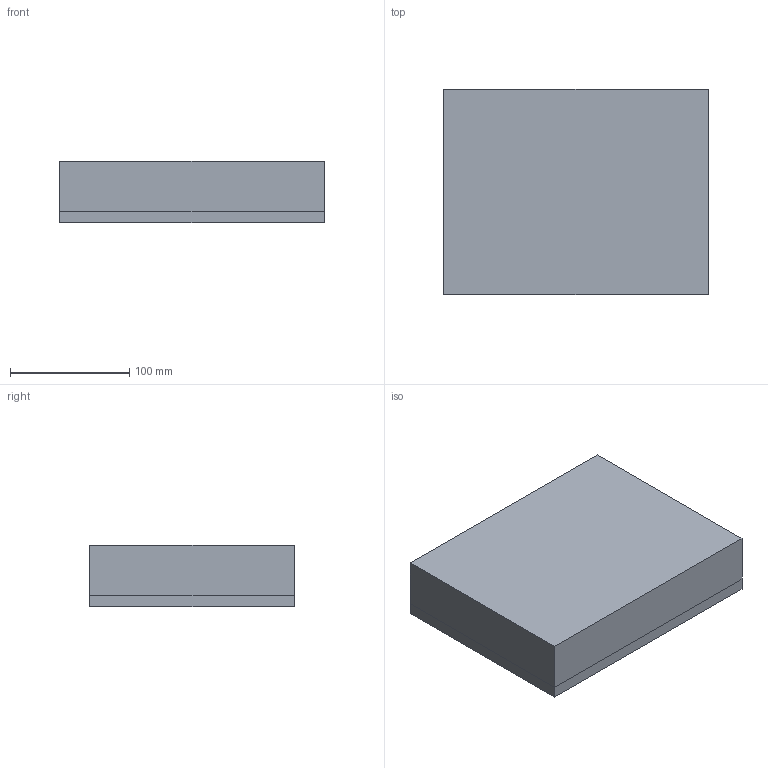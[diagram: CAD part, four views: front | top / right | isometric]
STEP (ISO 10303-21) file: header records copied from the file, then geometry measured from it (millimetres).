
FILE_DESCRIPTION(('CATIA V5 STEP Exchange'),'2;1');
FILE_NAME('C:\_Andres\UNIVERSIDAD\IQS\ASIGNATURAS\DAO\Controles\1920\c2\c2-Verges_Suarez_Felipe.stp','2020-02-10T15:38:45+00:00',('none'),('none'),'CATIA Version 5 Release 19 SP 3 (IN-10)','CATIA V5 STEP AP203','none');
FILE_SCHEMA(('CONFIG_CONTROL_DESIGN'));
Length unit declared in the file: millimetre
Products named in the file (1): c2-Verges_Suarez_Felipe
Bounding box: 222 x 172 x 52 mm (x, y, z)
Surface area: 298092.1 mm2
Topology: 3 solids, 3 shells, 103 faces, 232 edges, 128 vertices
Faces by surface type: cylinder 40, plane 27, bspline 24, sphere 12
Entity records: 3348 total; most frequent: CARTESIAN_POINT 1636, ORIENTED_EDGE 440, DIRECTION 224, EDGE_CURVE 164, EDGE_LOOP 110, ADVANCED_FACE 103, FACE_OUTER_BOUND 103, AXIS2_PLACEMENT_3D 96
